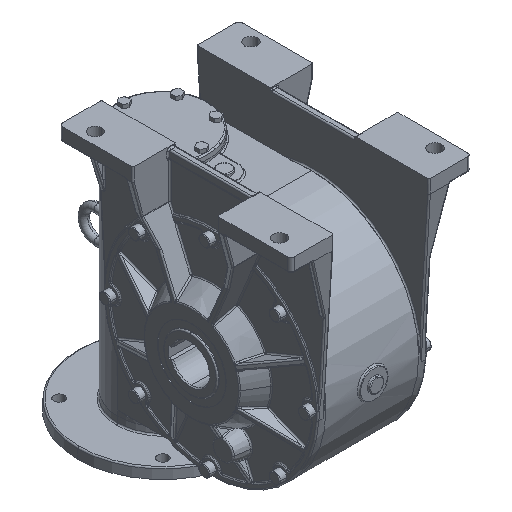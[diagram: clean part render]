
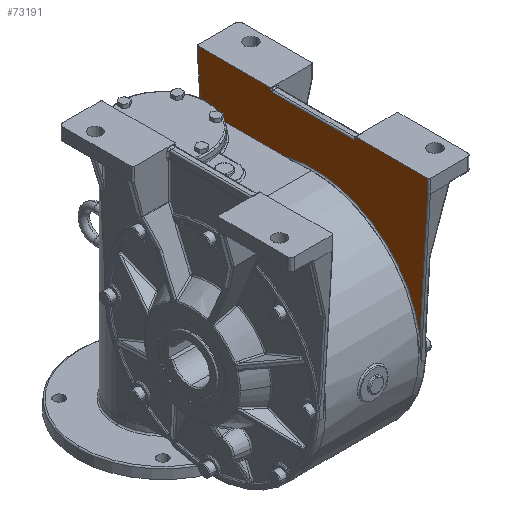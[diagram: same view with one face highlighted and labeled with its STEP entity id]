
A CAD part, isometric view. The second image highlights one B-rep face of the part: STEP entity #73191.
In plain terms, the highlighted planar face has unit normal (-1, 0, 0) as drawn and (0, 0, 1) by its records, which use the part's own axes.
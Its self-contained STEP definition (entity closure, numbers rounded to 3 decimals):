
#60599 = EDGE_CURVE ( 'NONE', #60601, #60600, #61852, .T. ) ;
#60600 = VERTEX_POINT ( 'NONE', #61915 ) ;
#60601 = VERTEX_POINT ( 'NONE', #61914 ) ;
#60643 = VERTEX_POINT ( 'NONE', #61950 ) ;
#60644 = VERTEX_POINT ( 'NONE', #61949 ) ;
#60646 = EDGE_CURVE ( 'NONE', #60643, #60644, #61948, .T. ) ;
#61607 = DIRECTION ( 'NONE',  ( 0., -1., 0. ) ) ;
#61850 = VECTOR ( 'NONE', #61607, 1000. ) ;
#61851 = CARTESIAN_POINT ( 'NONE',  ( -62., -230., -2. ) ) ;
#61852 = LINE ( 'NONE', #61851, #61850 ) ;
#61914 = CARTESIAN_POINT ( 'NONE',  ( -62., -228.464, -2. ) ) ;
#61915 = CARTESIAN_POINT ( 'NONE',  ( -62., -230., -2. ) ) ;
#61945 = DIRECTION ( 'NONE',  ( 0., 1., 0. ) ) ;
#61946 = VECTOR ( 'NONE', #61945, 1000. ) ;
#61947 = CARTESIAN_POINT ( 'NONE',  ( 62., -230., -2. ) ) ;
#61948 = LINE ( 'NONE', #61947, #61946 ) ;
#61949 = CARTESIAN_POINT ( 'NONE',  ( 62., -228.464, -2. ) ) ;
#61950 = CARTESIAN_POINT ( 'NONE',  ( 62., -230., -2. ) ) ;
#73006 = EDGE_CURVE ( 'NONE', #60600, #73007, #107034, .T. ) ;
#73007 = VERTEX_POINT ( 'NONE', #107030 ) ;
#73039 = VERTEX_POINT ( 'NONE', #107045 ) ;
#73041 = EDGE_CURVE ( 'NONE', #73039, #60643, #107103, .T. ) ;
#73103 = EDGE_LOOP ( 'NONE', ( #73104, #73111, #73114, #73175, #73177, #73178, #73179, #73182, #73185, #73161, #73162, #73163 ) ) ;
#73104 = ORIENTED_EDGE ( 'NONE', *, *, #73105, .T. ) ;
#73105 = EDGE_CURVE ( 'NONE', #73108, #73109, #107177, .T. ) ;
#73108 = VERTEX_POINT ( 'NONE', #107224 ) ;
#73109 = VERTEX_POINT ( 'NONE', #107223 ) ;
#73111 = ORIENTED_EDGE ( 'NONE', *, *, #73112, .T. ) ;
#73112 = EDGE_CURVE ( 'NONE', #73109, #73113, #107222, .T. ) ;
#73113 = VERTEX_POINT ( 'NONE', #107217 ) ;
#73114 = ORIENTED_EDGE ( 'NONE', *, *, #73174, .T. ) ;
#73115 = VERTEX_POINT ( 'NONE', #107216 ) ;
#73161 = ORIENTED_EDGE ( 'NONE', *, *, #60646, .F. ) ;
#73162 = ORIENTED_EDGE ( 'NONE', *, *, #73041, .F. ) ;
#73163 = ORIENTED_EDGE ( 'NONE', *, *, #73164, .T. ) ;
#73164 = EDGE_CURVE ( 'NONE', #73039, #73108, #107311, .T. ) ;
#73174 = EDGE_CURVE ( 'NONE', #73113, #73115, #107336, .T. ) ;
#73175 = ORIENTED_EDGE ( 'NONE', *, *, #73176, .T. ) ;
#73176 = EDGE_CURVE ( 'NONE', #73115, #73007, #107332, .T. ) ;
#73177 = ORIENTED_EDGE ( 'NONE', *, *, #73006, .F. ) ;
#73178 = ORIENTED_EDGE ( 'NONE', *, *, #60599, .F. ) ;
#73179 = ORIENTED_EDGE ( 'NONE', *, *, #73180, .T. ) ;
#73180 = EDGE_CURVE ( 'NONE', #60601, #73181, #107328, .T. ) ;
#73181 = VERTEX_POINT ( 'NONE', #107327 ) ;
#73182 = ORIENTED_EDGE ( 'NONE', *, *, #73183, .T. ) ;
#73183 = EDGE_CURVE ( 'NONE', #73181, #73184, #107326, .T. ) ;
#73184 = VERTEX_POINT ( 'NONE', #107382 ) ;
#73185 = ORIENTED_EDGE ( 'NONE', *, *, #73186, .T. ) ;
#73186 = EDGE_CURVE ( 'NONE', #73184, #60644, #107381, .T. ) ;
#73191 = ADVANCED_FACE ( 'NONE', ( #107362 ), #107361, .F. ) ;
#107030 = CARTESIAN_POINT ( 'NONE',  ( -168., -230., -2. ) ) ;
#107031 = DIRECTION ( 'NONE',  ( -1., 0., 0. ) ) ;
#107032 = VECTOR ( 'NONE', #107031, 1000. ) ;
#107033 = CARTESIAN_POINT ( 'NONE',  ( -62., -230., -2. ) ) ;
#107034 = LINE ( 'NONE', #107033, #107032 ) ;
#107045 = CARTESIAN_POINT ( 'NONE',  ( 168., -230., -2. ) ) ;
#107100 = DIRECTION ( 'NONE',  ( -1., 0., 0. ) ) ;
#107101 = VECTOR ( 'NONE', #107100, 1000. ) ;
#107102 = CARTESIAN_POINT ( 'NONE',  ( 170., -230., -2. ) ) ;
#107103 = LINE ( 'NONE', #107102, #107101 ) ;
#107174 = DIRECTION ( 'NONE',  ( -0.06, 0.998, 0. ) ) ;
#107175 = VECTOR ( 'NONE', #107174, 1000. ) ;
#107176 = CARTESIAN_POINT ( 'NONE',  ( 154.717, 9.366, -2. ) ) ;
#107177 = LINE ( 'NONE', #107176, #107175 ) ;
#107216 = CARTESIAN_POINT ( 'NONE',  ( -168., -210.06, -2. ) ) ;
#107217 = CARTESIAN_POINT ( 'NONE',  ( -156.858, -26.009, -2. ) ) ;
#107218 = DIRECTION ( 'NONE',  ( -1., 0., 0. ) ) ;
#107219 = DIRECTION ( 'NONE',  ( 0., 0., -1. ) ) ;
#107220 = CARTESIAN_POINT ( 'NONE',  ( 0., 0., -2. ) ) ;
#107221 = AXIS2_PLACEMENT_3D ( 'NONE', #107220, #107219, #107218 ) ;
#107222 = CIRCLE ( 'NONE', #107221, 159. ) ;
#107223 = CARTESIAN_POINT ( 'NONE',  ( 156.858, -26.009, -2. ) ) ;
#107224 = CARTESIAN_POINT ( 'NONE',  ( 168., -210.06, -2. ) ) ;
#107308 = DIRECTION ( 'NONE',  ( 0., 1., 0. ) ) ;
#107309 = VECTOR ( 'NONE', #107308, 1000. ) ;
#107310 = CARTESIAN_POINT ( 'NONE',  ( 168., -210., -2. ) ) ;
#107311 = LINE ( 'NONE', #107310, #107309 ) ;
#107320 = CARTESIAN_POINT ( 'NONE',  ( -61.703, -227.131, -2. ) ) ;
#107321 = CARTESIAN_POINT ( 'NONE',  ( -61.934, -227.782, -2. ) ) ;
#107322 = CARTESIAN_POINT ( 'NONE',  ( -62., -228.117, -2. ) ) ;
#107323 = CARTESIAN_POINT ( 'NONE',  ( -62., -228.464, -2. ) ) ;
#107324 = VECTOR ( 'NONE', #107383, 1000. ) ;
#107325 = CARTESIAN_POINT ( 'NONE',  ( 62., -225., -2. ) ) ;
#107326 = LINE ( 'NONE', #107325, #107324 ) ;
#107327 = CARTESIAN_POINT ( 'NONE',  ( -60., -225., -2. ) ) ;
#107328 = B_SPLINE_CURVE_WITH_KNOTS ( 'NONE', 3,
 ( #107323, #107322, #107321, #107320, #107389, #107388, #107387, #107386, #107385, #107384 ),
 .UNSPECIFIED., .F., .F.,
 ( 4, 2, 2, 2, 4 ),
 ( 0., 0.001, 0.002, 0.003, 0.004 ),
 .UNSPECIFIED. ) ;
#107329 = DIRECTION ( 'NONE',  ( 0., -1., 0. ) ) ;
#107330 = VECTOR ( 'NONE', #107329, 1000. ) ;
#107331 = CARTESIAN_POINT ( 'NONE',  ( -168., -230., -2. ) ) ;
#107332 = LINE ( 'NONE', #107331, #107330 ) ;
#107333 = DIRECTION ( 'NONE',  ( -0.06, -0.998, 0. ) ) ;
#107334 = VECTOR ( 'NONE', #107333, 1000. ) ;
#107335 = CARTESIAN_POINT ( 'NONE',  ( -168.004, -210.121, -2. ) ) ;
#107336 = LINE ( 'NONE', #107335, #107334 ) ;
#107357 = DIRECTION ( 'NONE',  ( -1., 0., 0. ) ) ;
#107358 = DIRECTION ( 'NONE',  ( 0., 0., -1. ) ) ;
#107359 = CARTESIAN_POINT ( 'NONE',  ( 0., 0., -2. ) ) ;
#107360 = AXIS2_PLACEMENT_3D ( 'NONE', #107359, #107358, #107357 ) ;
#107361 = PLANE ( 'NONE',  #107360 ) ;
#107362 = FACE_OUTER_BOUND ( 'NONE', #73103, .T. ) ;
#107367 = CARTESIAN_POINT ( 'NONE',  ( 62., -228.464, -2. ) ) ;
#107368 = CARTESIAN_POINT ( 'NONE',  ( 62., -228.117, -2. ) ) ;
#107369 = CARTESIAN_POINT ( 'NONE',  ( 61.934, -227.782, -2. ) ) ;
#107370 = CARTESIAN_POINT ( 'NONE',  ( 61.703, -227.131, -2. ) ) ;
#107371 = CARTESIAN_POINT ( 'NONE',  ( 61.543, -226.83, -2. ) ) ;
#107372 = CARTESIAN_POINT ( 'NONE',  ( 61.164, -226.261, -2. ) ) ;
#107373 = CARTESIAN_POINT ( 'NONE',  ( 60.945, -225.993, -2. ) ) ;
#107374 = CARTESIAN_POINT ( 'NONE',  ( 60.485, -225.485, -2. ) ) ;
#107375 = CARTESIAN_POINT ( 'NONE',  ( 60.242, -225.242, -2. ) ) ;
#107376 = CARTESIAN_POINT ( 'NONE',  ( 60., -225., -2. ) ) ;
#107381 = B_SPLINE_CURVE_WITH_KNOTS ( 'NONE', 3,
 ( #107376, #107375, #107374, #107373, #107372, #107371, #107370, #107369, #107368, #107367 ),
 .UNSPECIFIED., .F., .F.,
 ( 4, 2, 2, 2, 4 ),
 ( 0., 0.001, 0.002, 0.003, 0.004 ),
 .UNSPECIFIED. ) ;
#107382 = CARTESIAN_POINT ( 'NONE',  ( 60., -225., -2. ) ) ;
#107383 = DIRECTION ( 'NONE',  ( 1., 0., 0. ) ) ;
#107384 = CARTESIAN_POINT ( 'NONE',  ( -60., -225., -2. ) ) ;
#107385 = CARTESIAN_POINT ( 'NONE',  ( -60.241, -225.241, -2. ) ) ;
#107386 = CARTESIAN_POINT ( 'NONE',  ( -60.485, -225.485, -2. ) ) ;
#107387 = CARTESIAN_POINT ( 'NONE',  ( -60.945, -225.993, -2. ) ) ;
#107388 = CARTESIAN_POINT ( 'NONE',  ( -61.164, -226.261, -2. ) ) ;
#107389 = CARTESIAN_POINT ( 'NONE',  ( -61.543, -226.83, -2. ) ) ;
